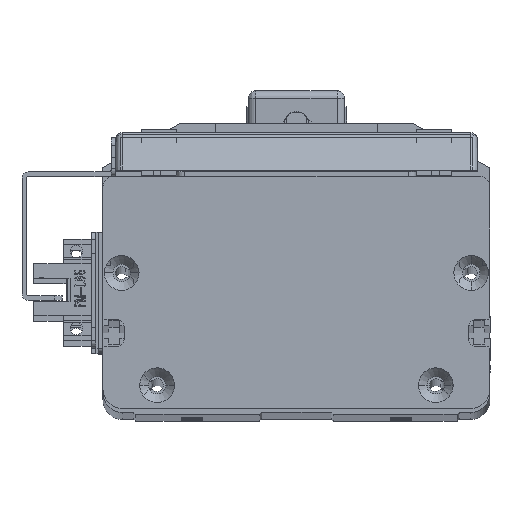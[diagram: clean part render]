
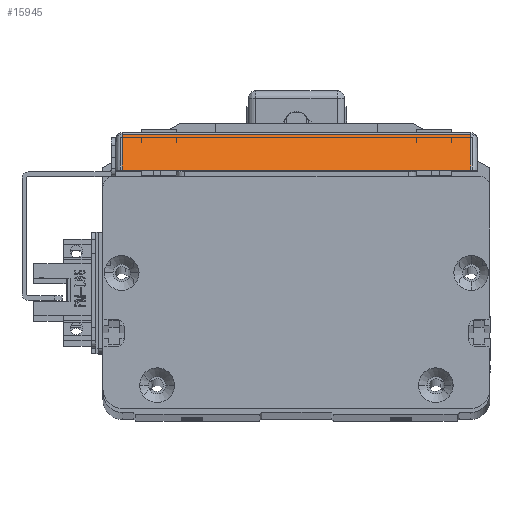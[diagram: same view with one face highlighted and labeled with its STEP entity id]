
A CAD part, top view. The second image highlights one B-rep face of the part: STEP entity #15945.
In plain terms, the highlighted planar face has unit normal (0, 0.707, 0.707) as drawn and (-0.707, 0, -0.707) by its records, which use the part's own axes.
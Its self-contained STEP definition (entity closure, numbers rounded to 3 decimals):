
#408 = CARTESIAN_POINT ( 'NONE',  ( -68., 91.7, 5.6 ) ) ;
#2053 = VERTEX_POINT ( 'NONE', #35320 ) ;
#2403 = CARTESIAN_POINT ( 'NONE',  ( -57.298, 93.4, -5.102 ) ) ;
#3793 = VECTOR ( 'NONE', #38574, 1000. ) ;
#3973 = EDGE_CURVE ( 'NONE', #18889, #53111, #7140, .T. ) ;
#6440 = EDGE_CURVE ( 'NONE', #44000, #18889, #40309, .T. ) ;
#7066 = VECTOR ( 'NONE', #45044, 1000. ) ;
#7140 = LINE ( 'NONE', #2403, #7066 ) ;
#8527 = ORIENTED_EDGE ( 'NONE', *, *, #6440, .T. ) ;
#9451 = EDGE_CURVE ( 'NONE', #2053, #44000, #9885, .T. ) ;
#9885 = LINE ( 'NONE', #61244, #34368 ) ;
#11960 = DIRECTION ( 'NONE',  ( -0.707, 0., -0.707 ) ) ;
#15026 = EDGE_CURVE ( 'NONE', #53111, #2053, #61856, .T. ) ;
#15945 = ADVANCED_FACE ( 'NONE', ( #69303 ), #43713, .T. ) ;
#16497 = CARTESIAN_POINT ( 'NONE',  ( -57.298, 1.7, -5.102 ) ) ;
#17945 = ORIENTED_EDGE ( 'NONE', *, *, #9451, .T. ) ;
#18889 = VERTEX_POINT ( 'NONE', #19541 ) ;
#19541 = CARTESIAN_POINT ( 'NONE',  ( -57.298, 91.7, -5.102 ) ) ;
#22616 = DIRECTION ( 'NONE',  ( 0.707, 0., -0.707 ) ) ;
#32496 = CARTESIAN_POINT ( 'NONE',  ( -68., 1.7, 5.6 ) ) ;
#32937 = DIRECTION ( 'NONE',  ( -0.707, 0., 0.707 ) ) ;
#34368 = VECTOR ( 'NONE', #60769, 1000. ) ;
#35320 = CARTESIAN_POINT ( 'NONE',  ( -66.5, 1.7, 4.1 ) ) ;
#38574 = DIRECTION ( 'NONE',  ( -0.707, 0., 0.707 ) ) ;
#39355 = AXIS2_PLACEMENT_3D ( 'NONE', #54280, #11960, #32937 ) ;
#40309 = LINE ( 'NONE', #408, #56251 ) ;
#43713 = PLANE ( 'NONE',  #39355 ) ;
#44000 = VERTEX_POINT ( 'NONE', #48164 ) ;
#44622 = ORIENTED_EDGE ( 'NONE', *, *, #3973, .T. ) ;
#45044 = DIRECTION ( 'NONE',  ( 0., -1., 0. ) ) ;
#48164 = CARTESIAN_POINT ( 'NONE',  ( -66.5, 91.7, 4.1 ) ) ;
#51725 = ORIENTED_EDGE ( 'NONE', *, *, #15026, .T. ) ;
#53111 = VERTEX_POINT ( 'NONE', #16497 ) ;
#54280 = CARTESIAN_POINT ( 'NONE',  ( -68., 93.4, 5.6 ) ) ;
#56251 = VECTOR ( 'NONE', #22616, 1000. ) ;
#60769 = DIRECTION ( 'NONE',  ( 0., 1., 0. ) ) ;
#61244 = CARTESIAN_POINT ( 'NONE',  ( -66.5, 93.4, 4.1 ) ) ;
#61856 = LINE ( 'NONE', #32496, #3793 ) ;
#64568 = EDGE_LOOP ( 'NONE', ( #51725, #17945, #8527, #44622 ) ) ;
#69303 = FACE_OUTER_BOUND ( 'NONE', #64568, .T. ) ;
